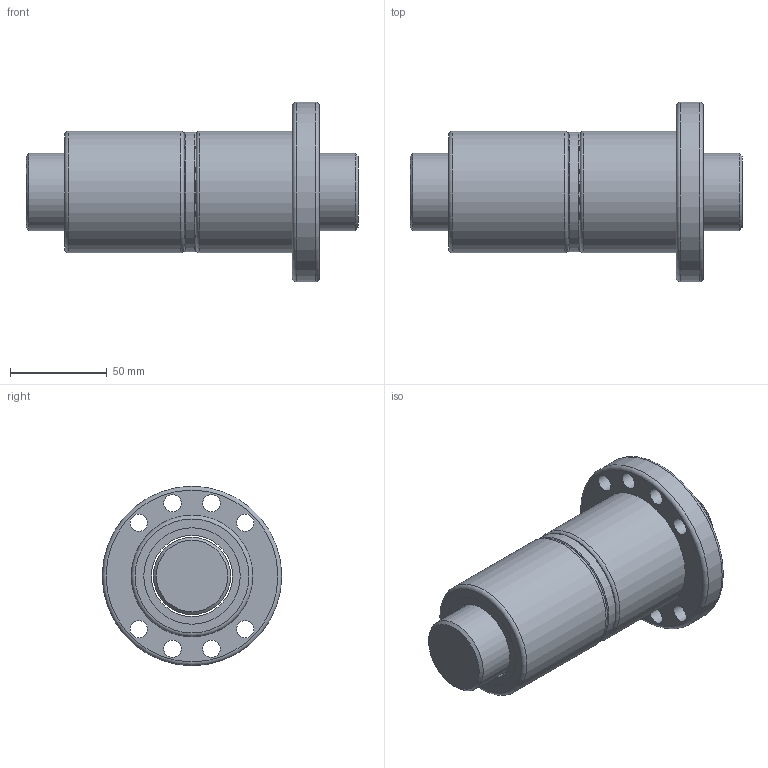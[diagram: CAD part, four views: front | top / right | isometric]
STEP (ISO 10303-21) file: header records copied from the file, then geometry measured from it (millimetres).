
FILE_DESCRIPTION(/* description */ (''),/* implementation_level */ '2;1');
FILE_NAME(/* name */ 'DFU4008',/* time_stamp */ '2007-10-26T10:59:01+08:00',/* author */ (''),/* organization */ (''),/* preprocessor_version */ 'ST-DEVELOPER v9',/* originating_system */ 'EDS PLM SOLUTIONS - UNIGRAPHICS NX 1.0',/* authorisation */ '');
FILE_SCHEMA (('CONFIG_CONTROL_DESIGN'));
Length unit declared in the file: millimetre
Products named in the file (1): FANNDA0400d1
Bounding box: 172 x 93 x 93 mm (x, y, z)
Volume: 487188.9 mm3; surface area: 93416.6 mm2
Topology: 6 solids, 6 shells, 46 faces, 91 edges, 60 vertices
Faces by surface type: cylinder 22, plane 15, torus 7, cone 2
Full cylindrical faces by diameter (mm): 9 x8, 40 x1, 42 x5, 50 x4, 62 x1, 63 x2, 93 x1
Entity records: 1122 total; most frequent: DIRECTION 200, CARTESIAN_POINT 153, EDGE_LOOP 106, ORIENTED_EDGE 106, AXIS2_PLACEMENT_3D 100, FACE_BOUND 89, VERTEX_POINT 53, EDGE_CURVE 53
